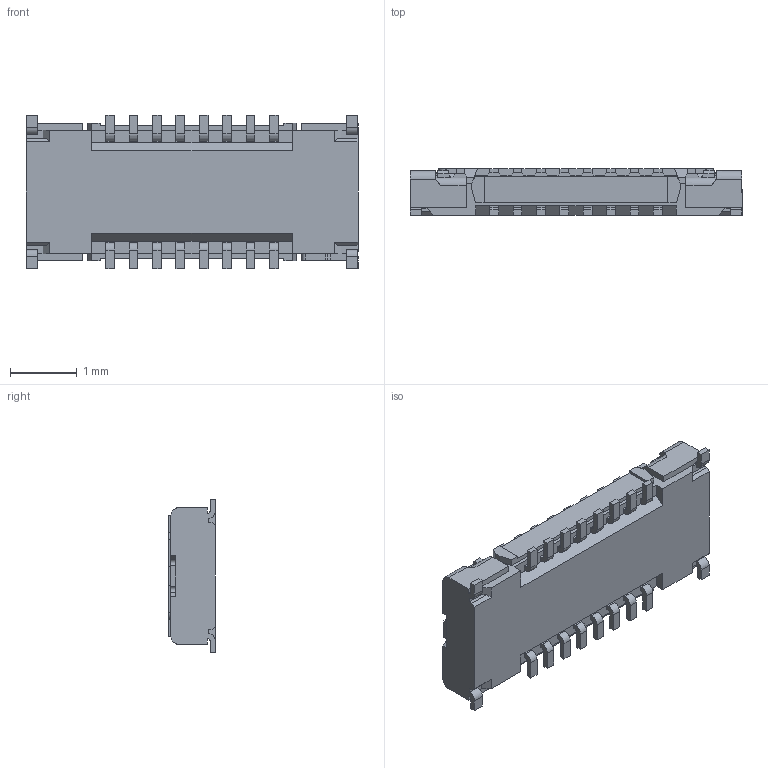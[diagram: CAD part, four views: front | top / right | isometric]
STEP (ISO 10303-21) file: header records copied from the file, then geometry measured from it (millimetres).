
FILE_DESCRIPTION (( 'STEP AP203' ), '1' );
FILE_NAME ('20708-016E-01+20709-016E-01C MATING STEP R1R2 ALL.STEP', '2025-02-28T09:05:09', ( '' ), ( '' ), 'SwSTEP 2.0', 'SolidWorks 2023', '' );
FILE_SCHEMA (( 'CONFIG_CONTROL_DESIGN' ));
Length unit declared in the file: millimetre
Products named in the file (1): 20708-016E-01+20709-016E-01C MATING STEP R1R2 ALL
Bounding box: 4.97 x 0.7 x 2.3 mm (x, y, z)
Volume: 6.1 mm3; surface area: 38.8 mm2
Topology: 1 solids, 1 shells, 610 faces, 1717 edges, 1126 vertices
Faces by surface type: plane 532, cylinder 78
Entity records: 19470 total; most frequent: CARTESIAN_POINT 3574, ORIENTED_EDGE 3434, DIRECTION 3067, EDGE_CURVE 1717, VECTOR 1533, LINE 1533, VERTEX_POINT 1126, AXIS2_PLACEMENT_3D 767
